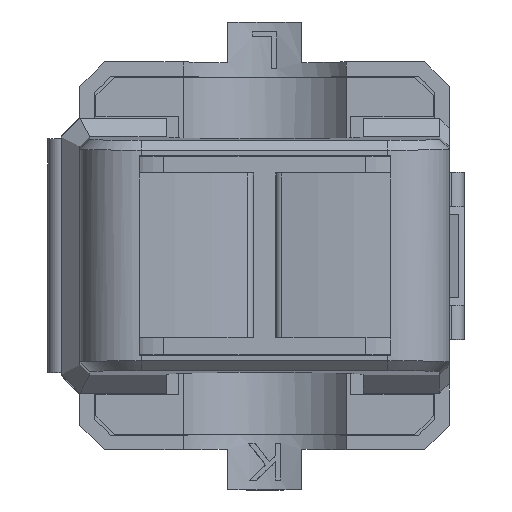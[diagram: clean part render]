
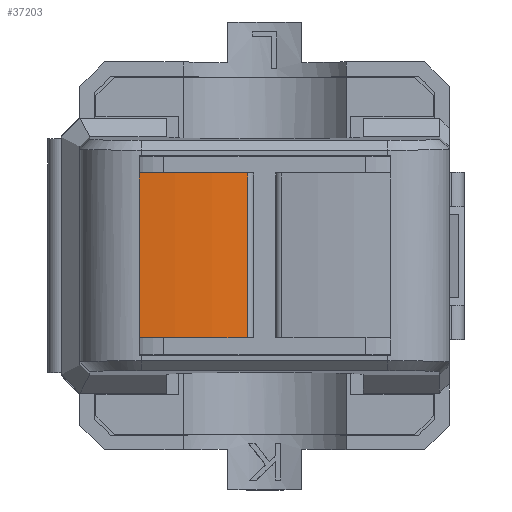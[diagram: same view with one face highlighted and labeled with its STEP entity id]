
A CAD part, top view. The second image highlights one B-rep face of the part: STEP entity #37203.
In plain terms, the highlighted cylindrical face has radius 36.199 mm (diameter 72.398 mm), a partial arc.
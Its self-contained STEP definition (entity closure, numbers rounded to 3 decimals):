
#30596 = PLANE('',#30597);
#30597 = AXIS2_PLACEMENT_3D('',#30598,#30599,#30600);
#30598 = CARTESIAN_POINT('',(-1.5,-6.7,54.332));
#30599 = DIRECTION('',(0.,1.,0.));
#30600 = DIRECTION('',(0.,0.,-1.));
#30648 = PLANE('',#30649);
#30649 = AXIS2_PLACEMENT_3D('',#30650,#30651,#30652);
#30650 = CARTESIAN_POINT('',(-1.5,6.7,54.332));
#30651 = DIRECTION('',(0.,1.,0.));
#30652 = DIRECTION('',(0.,0.,-1.));
#30674 = CYLINDRICAL_SURFACE('',#30675,0.6);
#30675 = AXIS2_PLACEMENT_3D('',#30676,#30677,#30678);
#30676 = CARTESIAN_POINT('',(-1.5,-6.7,54.332));
#30677 = DIRECTION('',(0.,1.,0.));
#30678 = DIRECTION('',(0.,0.,-1.));
#30826 = VERTEX_POINT('',#30827);
#30827 = CARTESIAN_POINT('',(-1.388,-6.7,54.921));
#30849 = EDGE_CURVE('',#30850,#30826,#30852,.T.);
#30850 = VERTEX_POINT('',#30851);
#30851 = CARTESIAN_POINT('',(-10.2,-6.7,55.496));
#30852 = SURFACE_CURVE('',#30853,(#30858,#30865),.PCURVE_S1.);
#30853 = CIRCLE('',#30854,36.199);
#30854 = AXIS2_PLACEMENT_3D('',#30855,#30856,#30857);
#30855 = CARTESIAN_POINT('',(-8.134,-6.7,19.356));
#30856 = DIRECTION('',(0.,1.,0.));
#30857 = DIRECTION('',(1.,-0.,0.));
#30858 = PCURVE('',#30596,#30859);
#30859 = DEFINITIONAL_REPRESENTATION('',(#30860),#30864);
#30860 = CIRCLE('',#30861,36.199);
#30861 = AXIS2_PLACEMENT_2D('',#30862,#30863);
#30862 = CARTESIAN_POINT('',(34.976,6.634));
#30863 = DIRECTION('',(0.,-1.));
#30864 = ( GEOMETRIC_REPRESENTATION_CONTEXT(2) 
PARAMETRIC_REPRESENTATION_CONTEXT() REPRESENTATION_CONTEXT('2D SPACE',''
  ) );
#30865 = PCURVE('',#30866,#30871);
#30866 = CYLINDRICAL_SURFACE('',#30867,36.199);
#30867 = AXIS2_PLACEMENT_3D('',#30868,#30869,#30870);
#30868 = CARTESIAN_POINT('',(-8.134,-6.7,19.356));
#30869 = DIRECTION('',(0.,1.,0.));
#30870 = DIRECTION('',(0.,0.,-1.));
#30871 = DEFINITIONAL_REPRESENTATION('',(#30872),#30876);
#30872 = LINE('',#30873,#30874);
#30873 = CARTESIAN_POINT('',(-1.571,0.));
#30874 = VECTOR('',#30875,1.);
#30875 = DIRECTION('',(1.,0.));
#30876 = ( GEOMETRIC_REPRESENTATION_CONTEXT(2) 
PARAMETRIC_REPRESENTATION_CONTEXT() REPRESENTATION_CONTEXT('2D SPACE',''
  ) );
#30932 = VERTEX_POINT('',#30933);
#30933 = CARTESIAN_POINT('',(-10.2,6.7,55.496));
#30959 = EDGE_CURVE('',#30932,#30960,#30962,.T.);
#30960 = VERTEX_POINT('',#30961);
#30961 = CARTESIAN_POINT('',(-1.388,6.7,54.921));
#30962 = SURFACE_CURVE('',#30963,(#30968,#30975),.PCURVE_S1.);
#30963 = CIRCLE('',#30964,36.199);
#30964 = AXIS2_PLACEMENT_3D('',#30965,#30966,#30967);
#30965 = CARTESIAN_POINT('',(-8.134,6.7,19.356));
#30966 = DIRECTION('',(0.,1.,0.));
#30967 = DIRECTION('',(1.,-0.,0.));
#30968 = PCURVE('',#30648,#30969);
#30969 = DEFINITIONAL_REPRESENTATION('',(#30970),#30974);
#30970 = CIRCLE('',#30971,36.199);
#30971 = AXIS2_PLACEMENT_2D('',#30972,#30973);
#30972 = CARTESIAN_POINT('',(34.976,6.634));
#30973 = DIRECTION('',(0.,-1.));
#30974 = ( GEOMETRIC_REPRESENTATION_CONTEXT(2) 
PARAMETRIC_REPRESENTATION_CONTEXT() REPRESENTATION_CONTEXT('2D SPACE',''
  ) );
#30975 = PCURVE('',#30866,#30976);
#30976 = DEFINITIONAL_REPRESENTATION('',(#30977),#30981);
#30977 = LINE('',#30978,#30979);
#30978 = CARTESIAN_POINT('',(-1.571,13.4));
#30979 = VECTOR('',#30980,1.);
#30980 = DIRECTION('',(1.,0.));
#30981 = ( GEOMETRIC_REPRESENTATION_CONTEXT(2) 
PARAMETRIC_REPRESENTATION_CONTEXT() REPRESENTATION_CONTEXT('2D SPACE',''
  ) );
#31560 = CYLINDRICAL_SURFACE('',#31561,5.);
#31561 = AXIS2_PLACEMENT_3D('',#31562,#31563,#31564);
#31562 = CARTESIAN_POINT('',(-10.,-9.65,50.5));
#31563 = DIRECTION('',(0.,1.,0.));
#31564 = DIRECTION('',(0.,0.,-1.));
#33064 = EDGE_CURVE('',#30850,#30932,#33065,.T.);
#33065 = SURFACE_CURVE('',#33066,(#33070,#33077),.PCURVE_S1.);
#33066 = LINE('',#33067,#33068);
#33067 = CARTESIAN_POINT('',(-10.2,-6.7,55.496));
#33068 = VECTOR('',#33069,1.);
#33069 = DIRECTION('',(0.,1.,0.));
#33070 = PCURVE('',#31560,#33071);
#33071 = DEFINITIONAL_REPRESENTATION('',(#33072),#33076);
#33072 = LINE('',#33073,#33074);
#33073 = CARTESIAN_POINT('',(3.102,2.95));
#33074 = VECTOR('',#33075,1.);
#33075 = DIRECTION('',(0.,1.));
#33076 = ( GEOMETRIC_REPRESENTATION_CONTEXT(2) 
PARAMETRIC_REPRESENTATION_CONTEXT() REPRESENTATION_CONTEXT('2D SPACE',''
  ) );
#33077 = PCURVE('',#30866,#33078);
#33078 = DEFINITIONAL_REPRESENTATION('',(#33079),#33083);
#33079 = LINE('',#33080,#33081);
#33080 = CARTESIAN_POINT('',(3.084,0.));
#33081 = VECTOR('',#33082,1.);
#33082 = DIRECTION('',(0.,1.));
#33083 = ( GEOMETRIC_REPRESENTATION_CONTEXT(2) 
PARAMETRIC_REPRESENTATION_CONTEXT() REPRESENTATION_CONTEXT('2D SPACE',''
  ) );
#37181 = EDGE_CURVE('',#30826,#30960,#37182,.T.);
#37182 = SURFACE_CURVE('',#37183,(#37187,#37194),.PCURVE_S1.);
#37183 = LINE('',#37184,#37185);
#37184 = CARTESIAN_POINT('',(-1.388,-6.7,54.921));
#37185 = VECTOR('',#37186,1.);
#37186 = DIRECTION('',(0.,1.,0.));
#37187 = PCURVE('',#30674,#37188);
#37188 = DEFINITIONAL_REPRESENTATION('',(#37189),#37193);
#37189 = LINE('',#37190,#37191);
#37190 = CARTESIAN_POINT('',(3.329,0.));
#37191 = VECTOR('',#37192,1.);
#37192 = DIRECTION('',(0.,1.));
#37193 = ( GEOMETRIC_REPRESENTATION_CONTEXT(2) 
PARAMETRIC_REPRESENTATION_CONTEXT() REPRESENTATION_CONTEXT('2D SPACE',''
  ) );
#37194 = PCURVE('',#30866,#37195);
#37195 = DEFINITIONAL_REPRESENTATION('',(#37196),#37200);
#37196 = LINE('',#37197,#37198);
#37197 = CARTESIAN_POINT('',(3.329,0.));
#37198 = VECTOR('',#37199,1.);
#37199 = DIRECTION('',(0.,1.));
#37200 = ( GEOMETRIC_REPRESENTATION_CONTEXT(2) 
PARAMETRIC_REPRESENTATION_CONTEXT() REPRESENTATION_CONTEXT('2D SPACE',''
  ) );
#37203 = ADVANCED_FACE('',(#37204),#30866,.T.);
#37204 = FACE_BOUND('',#37205,.T.);
#37205 = EDGE_LOOP('',(#37206,#37207,#37208,#37209));
#37206 = ORIENTED_EDGE('',*,*,#30959,.F.);
#37207 = ORIENTED_EDGE('',*,*,#33064,.F.);
#37208 = ORIENTED_EDGE('',*,*,#30849,.T.);
#37209 = ORIENTED_EDGE('',*,*,#37181,.T.);
